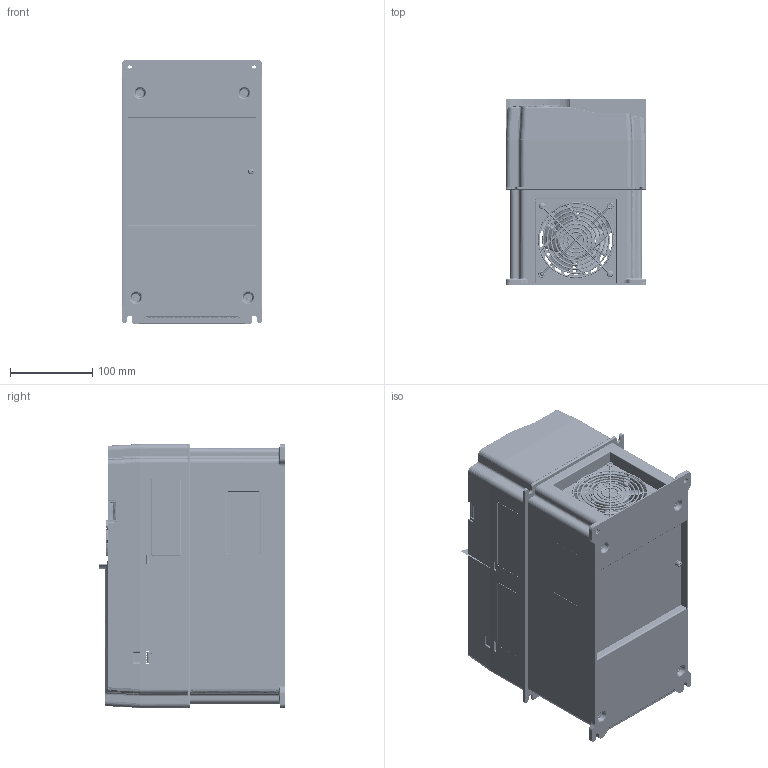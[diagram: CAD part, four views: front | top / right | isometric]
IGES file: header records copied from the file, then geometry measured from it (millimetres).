
Start section: SolidWorks IGES file using analytic representation for surfaces
Global section: file name: T:\Eng\INVT\Driver VFD\B7 drawing info\B7 2D & 3D drawings (PNs refer to INVT products)\GD350-UL_3D stp\UMI-4.0-5.5CU_7.5-11EU-B7\UMI-4.0-5.5CU_7.5-11EU-B7.IGS; native system: SolidWorks 2022; preprocessor: SolidWorks 2022; author: OfirZ; date: 240818.091735; units: millimetre
Bounding box: 170.6 x 225.3 x 320 mm (x, y, z)
Surface area: 1222534.3 mm2 (no closed solid volume)
Topology: 0 solids, 0 shells, 11335 faces, 100997 edges, 100912 vertices
Faces by surface type: bspline 8478, revolution 2857
